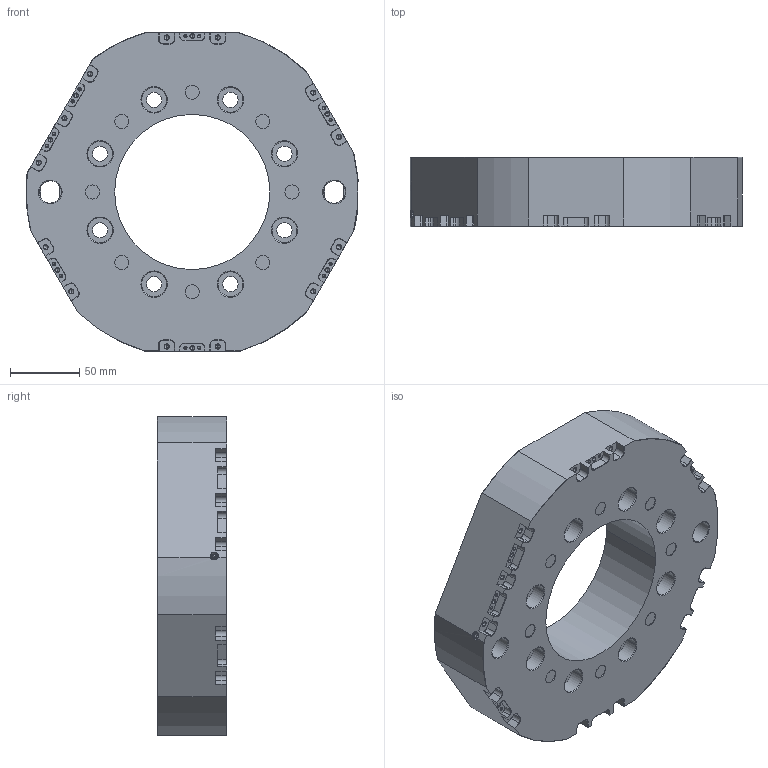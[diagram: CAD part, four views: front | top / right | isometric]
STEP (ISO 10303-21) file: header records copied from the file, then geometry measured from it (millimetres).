
FILE_DESCRIPTION (( 'STEP AP203' ), '1' );
FILE_NAME ('TSKP-T360-00 萵攫掛极.STEP', '2021-08-12T09:33:40', ( '' ), ( '' ), 'SwSTEP 2.0', 'SolidWorks 2018', '' );
FILE_SCHEMA (( 'CONFIG_CONTROL_DESIGN' ));
Length unit declared in the file: millimetre
Products named in the file (1): TSKP-T360-00 萵攫掛极
Bounding box: 239.63 x 50 x 230 mm (x, y, z)
Volume: 1551347.6 mm3; surface area: 176830.2 mm2
Topology: 1 solids, 12 shells, 950 faces, 2266 edges, 1340 vertices
Faces by surface type: plane 352, cylinder 290, cone 284, torus 24
Entity records: 26991 total; most frequent: DIRECTION 4950, CARTESIAN_POINT 4742, ORIENTED_EDGE 4356, EDGE_CURVE 2178, AXIS2_PLACEMENT_3D 1857, VERTEX_POINT 1340, VECTOR 1236, LINE 1236
